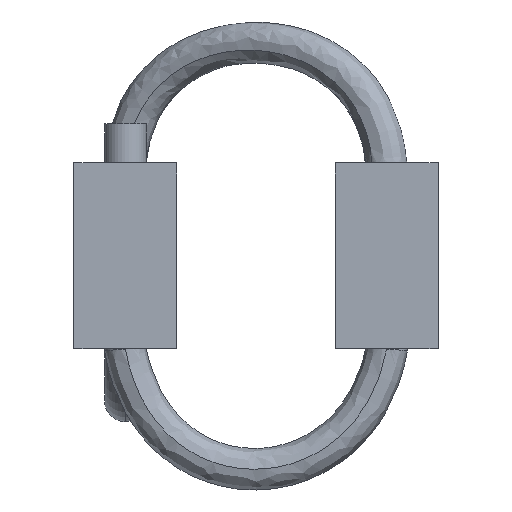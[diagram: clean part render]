
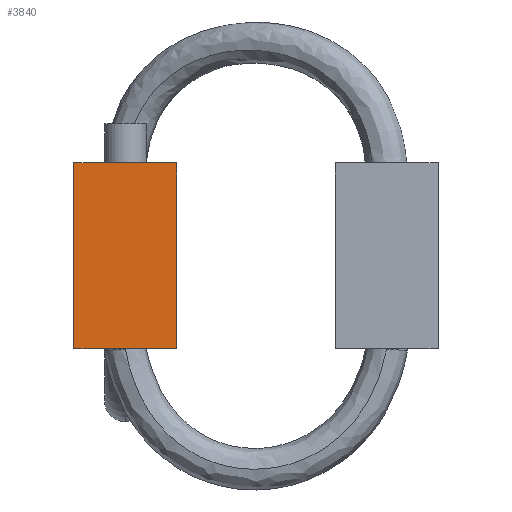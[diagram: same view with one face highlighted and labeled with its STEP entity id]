
A CAD part, left-side view. The second image highlights one B-rep face of the part: STEP entity #3840.
In plain terms, the highlighted planar face has unit normal (-1, 0, 0).
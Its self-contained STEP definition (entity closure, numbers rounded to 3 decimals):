
#310 = LINE ( 'NONE', #11916, #16827 ) ;
#311 = ORIENTED_EDGE ( 'NONE', *, *, #17421, .F. ) ;
#431 = DIRECTION ( 'NONE',  ( 0., 1., 0. ) ) ;
#1546 = ORIENTED_EDGE ( 'NONE', *, *, #5804, .F. ) ;
#2970 = DIRECTION ( 'NONE',  ( 0., -1., 0. ) ) ;
#3840 = ADVANCED_FACE ( 'NONE', ( #16888 ), #5770, .T. ) ;
#3938 = DIRECTION ( 'NONE',  ( 0., 0., -1. ) ) ;
#4508 = CARTESIAN_POINT ( 'NONE',  ( -63.5, 6.1, 7.15 ) ) ;
#5173 = DIRECTION ( 'NONE',  ( 0., 0., 1. ) ) ;
#5225 = EDGE_CURVE ( 'NONE', #9668, #10379, #19571, .T. ) ;
#5283 = CARTESIAN_POINT ( 'NONE',  ( -63.5, 14., -7.15 ) ) ;
#5770 = PLANE ( 'NONE',  #10330 ) ;
#5804 = EDGE_CURVE ( 'NONE', #10379, #13650, #310, .T. ) ;
#6155 = LINE ( 'NONE', #16365, #14207 ) ;
#6746 = CARTESIAN_POINT ( 'NONE',  ( -63.5, 14., -7.15 ) ) ;
#6752 = ORIENTED_EDGE ( 'NONE', *, *, #17447, .F. ) ;
#8025 = ORIENTED_EDGE ( 'NONE', *, *, #5225, .F. ) ;
#8922 = CARTESIAN_POINT ( 'NONE',  ( -63.5, 10.05, 0. ) ) ;
#8980 = DIRECTION ( 'NONE',  ( -1., 0., 0. ) ) ;
#9668 = VERTEX_POINT ( 'NONE', #12588 ) ;
#10330 = AXIS2_PLACEMENT_3D ( 'NONE', #8922, #8980, #20167 ) ;
#10379 = VERTEX_POINT ( 'NONE', #4508 ) ;
#11916 = CARTESIAN_POINT ( 'NONE',  ( -63.5, 6.1, -7.15 ) ) ;
#12572 = CARTESIAN_POINT ( 'NONE',  ( -63.5, 14., 7.15 ) ) ;
#12588 = CARTESIAN_POINT ( 'NONE',  ( -63.5, 14., 7.15 ) ) ;
#13650 = VERTEX_POINT ( 'NONE', #17958 ) ;
#13697 = VECTOR ( 'NONE', #431, 1000. ) ;
#14207 = VECTOR ( 'NONE', #5173, 1000. ) ;
#15363 = EDGE_LOOP ( 'NONE', ( #8025, #311, #6752, #1546 ) ) ;
#15879 = VECTOR ( 'NONE', #2970, 1000. ) ;
#16365 = CARTESIAN_POINT ( 'NONE',  ( -63.5, 14., -7.15 ) ) ;
#16827 = VECTOR ( 'NONE', #3938, 1000. ) ;
#16888 = FACE_OUTER_BOUND ( 'NONE', #15363, .T. ) ;
#17421 = EDGE_CURVE ( 'NONE', #18365, #9668, #6155, .T. ) ;
#17447 = EDGE_CURVE ( 'NONE', #13650, #18365, #17928, .T. ) ;
#17928 = LINE ( 'NONE', #6746, #13697 ) ;
#17958 = CARTESIAN_POINT ( 'NONE',  ( -63.5, 6.1, -7.15 ) ) ;
#18365 = VERTEX_POINT ( 'NONE', #5283 ) ;
#19571 = LINE ( 'NONE', #12572, #15879 ) ;
#20167 = DIRECTION ( 'NONE',  ( 0., 0., 1. ) ) ;
